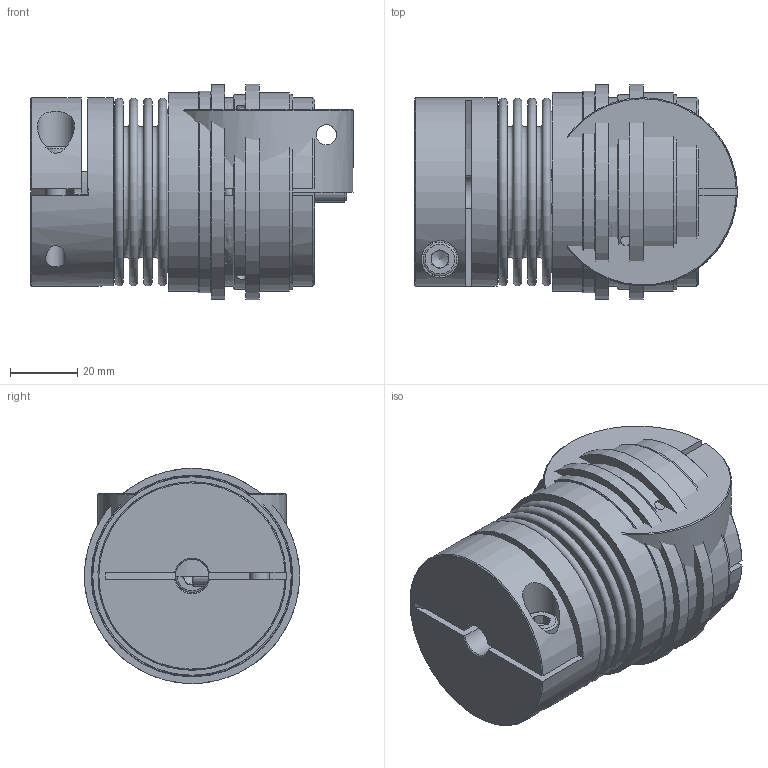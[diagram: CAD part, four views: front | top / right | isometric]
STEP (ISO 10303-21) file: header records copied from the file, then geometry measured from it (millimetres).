
FILE_DESCRIPTION( ( 'Unknown' ), '1' );
FILE_NAME( 'C:/Dokumente und Einstellungen/SKarpstein/Desktop/Korrigierte 3D Modelle/KBK-BKK-30-85.stp', 'Unknown', ( 'Unknown' ), ( 'Unknown' ), 'XStep 1.0', 'Unknown', ' ' );
FILE_SCHEMA( ( 'automotive_design' ) );
Length unit declared in the file: millimetre
Products named in the file (11): Assem1; Assem2; Zylinderschraube DIN 912_0_0_0; Stellring 30_0; Druckring 30_0; L-K-30 Grundkörper_0; Klemmnabe 30_0; Flansch BK30; KN30_Standard_2; Socket Head Cap Screw_DIN_DIN 912 M6 x 20 --- 20N_3; BK30_Standard_1
Bounding box: 95.95 x 64 x 64 mm (x, y, z)
Volume: 327778.7 mm3; surface area: 157113.9 mm2
Topology: 19 solids, 19 shells, 333 faces, 706 edges, 461 vertices
Faces by surface type: plane 168, cylinder 88, torus 40, cone 37
Full cylindrical faces by diameter (mm): 3.242 x6, 4.917 x2, 6 x7, 6.4 x4, 10 x9, 11 x4, 23.9 x2, 25 x4, 30 x2, 34 x2, 37 x2, 38 x6, 40 x2, 46.5 x4, 47.3 x4, 52 x2, 56 x2, 58 x2, 59 x2, 60 x2, 64 x2
Entity records: 4919 total; most frequent: CARTESIAN_POINT 1281, DIRECTION 687, ORIENTED_EDGE 504, AXIS2_PLACEMENT_3D 303, EDGE_LOOP 274, EDGE_CURVE 252, FACE_OUTER_BOUND 213, VERTEX_POINT 203
